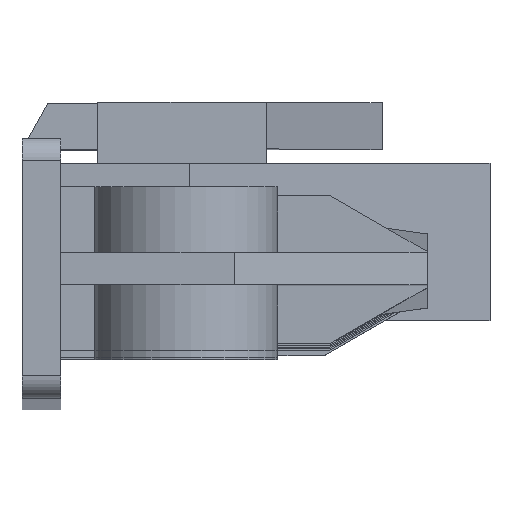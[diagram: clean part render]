
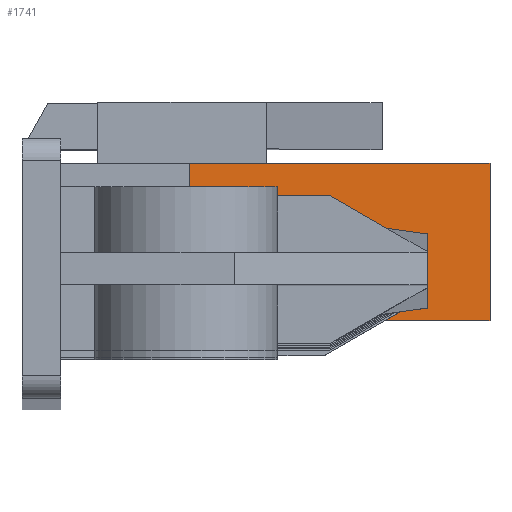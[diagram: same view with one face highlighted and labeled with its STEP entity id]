
A CAD part, top view. The second image highlights one B-rep face of the part: STEP entity #1741.
In plain terms, the highlighted planar face has unit normal (0.052, 0, 0.999).
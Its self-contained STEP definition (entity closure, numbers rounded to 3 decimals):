
#335 = VERTEX_POINT ( 'NONE', #1334 ) ;
#427 = EDGE_CURVE ( 'NONE', #4379, #5519, #3419, .T. ) ;
#531 = EDGE_CURVE ( 'NONE', #4379, #4961, #5137, .T. ) ;
#591 = CARTESIAN_POINT ( 'NONE',  ( 12.019, -27.745, -10.893 ) ) ;
#643 = CARTESIAN_POINT ( 'NONE',  ( 12.019, -27.745, -10.893 ) ) ;
#975 = CARTESIAN_POINT ( 'NONE',  ( 12.019, -27.745, -10.893 ) ) ;
#1000 = DIRECTION ( 'NONE',  ( 0.999, 0., -0.052 ) ) ;
#1087 = PLANE ( 'NONE',  #4115 ) ;
#1183 = ORIENTED_EDGE ( 'NONE', *, *, #5043, .F. ) ;
#1334 = CARTESIAN_POINT ( 'NONE',  ( 21.357, -32.645, -11.384 ) ) ;
#1553 = VECTOR ( 'NONE', #3964, 1000. ) ;
#1741 = ADVANCED_FACE ( 'NONE', ( #2061 ), #1087, .T. ) ;
#1914 = VECTOR ( 'NONE', #4993, 1000. ) ;
#2061 = FACE_OUTER_BOUND ( 'NONE', #4152, .T. ) ;
#2097 = CARTESIAN_POINT ( 'NONE',  ( 12.019, -27.745, -10.893 ) ) ;
#2153 = DIRECTION ( 'NONE',  ( 0., -1., 0. ) ) ;
#2419 = ORIENTED_EDGE ( 'NONE', *, *, #4952, .T. ) ;
#2638 = LINE ( 'NONE', #3149, #4572 ) ;
#3010 = LINE ( 'NONE', #4495, #1914 ) ;
#3052 = DIRECTION ( 'NONE',  ( 0.052, 0., 0.999 ) ) ;
#3149 = CARTESIAN_POINT ( 'NONE',  ( 21.357, -27.745, -11.384 ) ) ;
#3419 = LINE ( 'NONE', #975, #6148 ) ;
#3480 = CARTESIAN_POINT ( 'NONE',  ( 12.019, -32.645, -10.893 ) ) ;
#3964 = DIRECTION ( 'NONE',  ( 0., -1., 0. ) ) ;
#4115 = AXIS2_PLACEMENT_3D ( 'NONE', #643, #3052, #5002 ) ;
#4152 = EDGE_LOOP ( 'NONE', ( #2419, #1183, #5183, #4723 ) ) ;
#4379 = VERTEX_POINT ( 'NONE', #2097 ) ;
#4495 = CARTESIAN_POINT ( 'NONE',  ( 12.019, -32.645, -10.893 ) ) ;
#4572 = VECTOR ( 'NONE', #2153, 1000. ) ;
#4723 = ORIENTED_EDGE ( 'NONE', *, *, #531, .T. ) ;
#4952 = EDGE_CURVE ( 'NONE', #4961, #335, #3010, .T. ) ;
#4961 = VERTEX_POINT ( 'NONE', #3480 ) ;
#4993 = DIRECTION ( 'NONE',  ( 0.999, 0., -0.052 ) ) ;
#5002 = DIRECTION ( 'NONE',  ( 0.999, 0., -0.052 ) ) ;
#5043 = EDGE_CURVE ( 'NONE', #5519, #335, #2638, .T. ) ;
#5137 = LINE ( 'NONE', #591, #1553 ) ;
#5183 = ORIENTED_EDGE ( 'NONE', *, *, #427, .F. ) ;
#5519 = VERTEX_POINT ( 'NONE', #6070 ) ;
#6070 = CARTESIAN_POINT ( 'NONE',  ( 21.357, -27.745, -11.384 ) ) ;
#6148 = VECTOR ( 'NONE', #1000, 1000. ) ;
